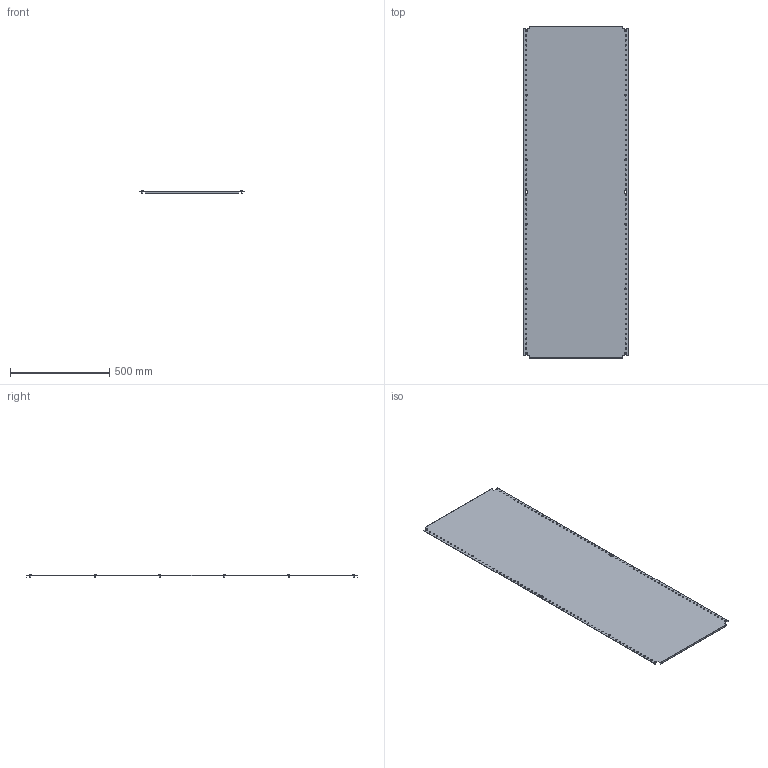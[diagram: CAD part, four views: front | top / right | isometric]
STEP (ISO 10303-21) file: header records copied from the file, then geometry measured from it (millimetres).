
FILE_DESCRIPTION (( 'STEP AP203' ), '1' );
FILE_NAME ('R6MP1860.STEP', '2025-03-28T12:10:57', ( '' ), ( '' ), 'SwSTEP 2.0', 'SolidWorks 2022', '' );
FILE_SCHEMA (( 'CONFIG_CONTROL_DESIGN' ));
Length unit declared in the file: millimetre
Products named in the file (3): R6MP1860; M5x12 DIN 7500 C Torx Zinc_stright; RB.3293.00.00.0_-22
Assembly tree (13 placements, depth 2):
  R6MP1860
    RB.3293.00.00.0_-22
    M5x12 DIN 7500 C Torx Zinc_stright  x12
Bounding box: 525 x 1670 x 15.56 mm (x, y, z)
Volume: 1585848.9 mm3; surface area: 1774464.3 mm2
Topology: 13 solids, 13 shells, 358 faces, 852 edges, 532 vertices
Faces by surface type: cylinder 160, plane 126, torus 24, cone 24, sphere 12, bspline 12
Full cylindrical faces by diameter (mm): 5 x12, 6.5 x132, 9.5 x12
Entity records: 6757 total; most frequent: CARTESIAN_POINT 1124, DIRECTION 1052, ORIENTED_EDGE 760, EDGE_LOOP 590, AXIS2_PLACEMENT_3D 482, EDGE_CURVE 380, VERTEX_POINT 342, FACE_OUTER_BOUND 320
